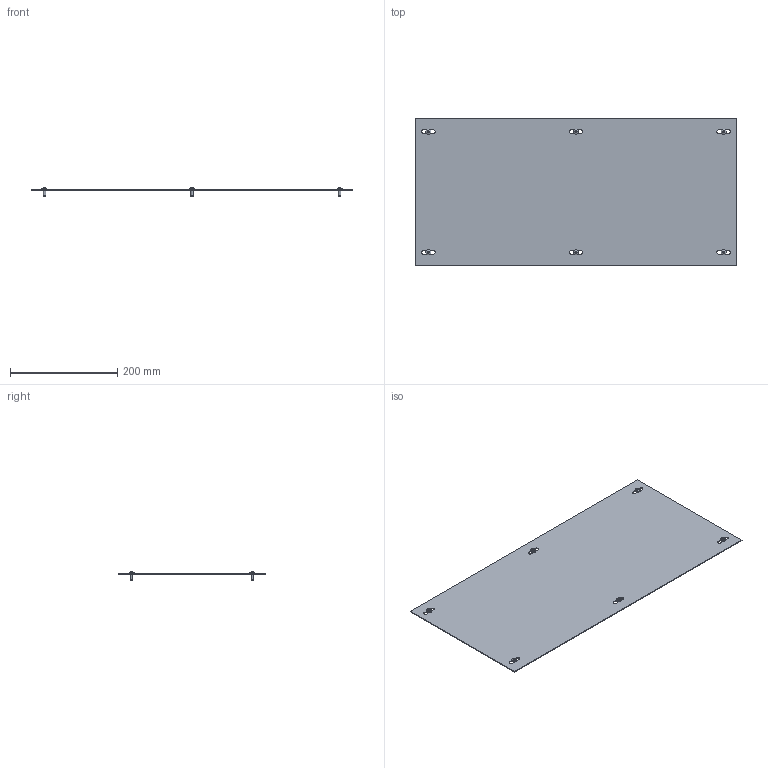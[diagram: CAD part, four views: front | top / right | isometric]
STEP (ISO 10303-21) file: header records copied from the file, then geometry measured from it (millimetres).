
FILE_DESCRIPTION(('Open CASCADE Model'),'2;1');
FILE_NAME('Open CASCADE Shape Model','2025-03-28T17:53:17',('Author'),( 'Open CASCADE'),'Open CASCADE STEP processor 7.8','Open CASCADE 7.8' ,'Unknown');
FILE_SCHEMA(('AUTOMOTIVE_DESIGN { 1 0 10303 214 1 1 1 1 }'));
Length unit declared in the file: millimetre
Products named in the file (3): Compound1; Solid1; Solid2
Assembly tree (7 placements, depth 2):
  Compound1
    Solid1
    Solid2  x6
Bounding box: 600 x 275 x 15.56 mm (x, y, z)
Volume: 248663.5 mm3; surface area: 333851.3 mm2
Topology: 7 solids, 7 shells, 126 faces, 264 edges, 158 vertices
Faces by surface type: plane 66, cylinder 24, torus 12, cone 12, sphere 6, bspline 6
Full cylindrical faces by diameter (mm): 5 x6, 9.5 x6
Entity records: 1804 total; most frequent: CARTESIAN_POINT 612, DIRECTION 242, ORIENTED_EDGE 226, EDGE_CURVE 113, AXIS2_PLACEMENT_3D 91, VERTEX_POINT 73, FACE_BOUND 60, EDGE_LOOP 60
